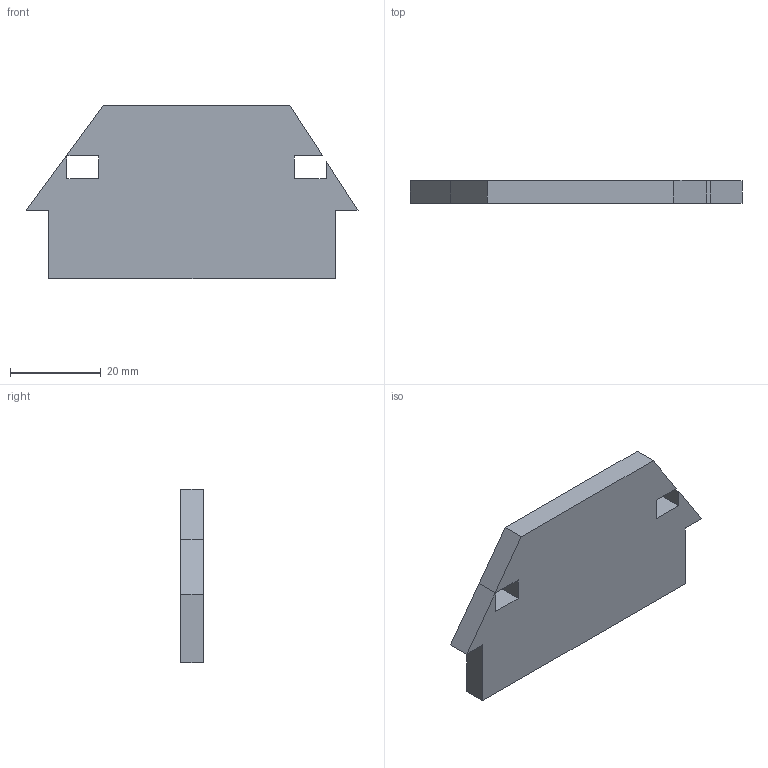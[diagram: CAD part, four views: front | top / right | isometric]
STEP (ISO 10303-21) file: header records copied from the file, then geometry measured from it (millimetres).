
FILE_DESCRIPTION(('STEP AP214'),'1');
FILE_NAME('tmp0.step','2025-04-21T15:19:07',(' '),(' '),'Spatial InterOp 3D',' ',' ');
FILE_SCHEMA(('AUTOMOTIVE_DESIGN { 1 0 10303 214 1 1 1 1 }'));
Length unit declared in the file: millimetre
Products named in the file (1): 1
Bounding box: 73 x 5 x 38.13 mm (x, y, z)
Volume: 10970.5 mm3; surface area: 5612.5 mm2
Topology: 1 solids, 1 shells, 19 faces, 51 edges, 34 vertices
Faces by surface type: plane 19
Entity records: 614 total; most frequent: CARTESIAN_POINT 105, ORIENTED_EDGE 102, DIRECTION 91, EDGE_CURVE 51, LINE 51, VECTOR 51, VERTEX_POINT 34, EDGE_LOOP 21
